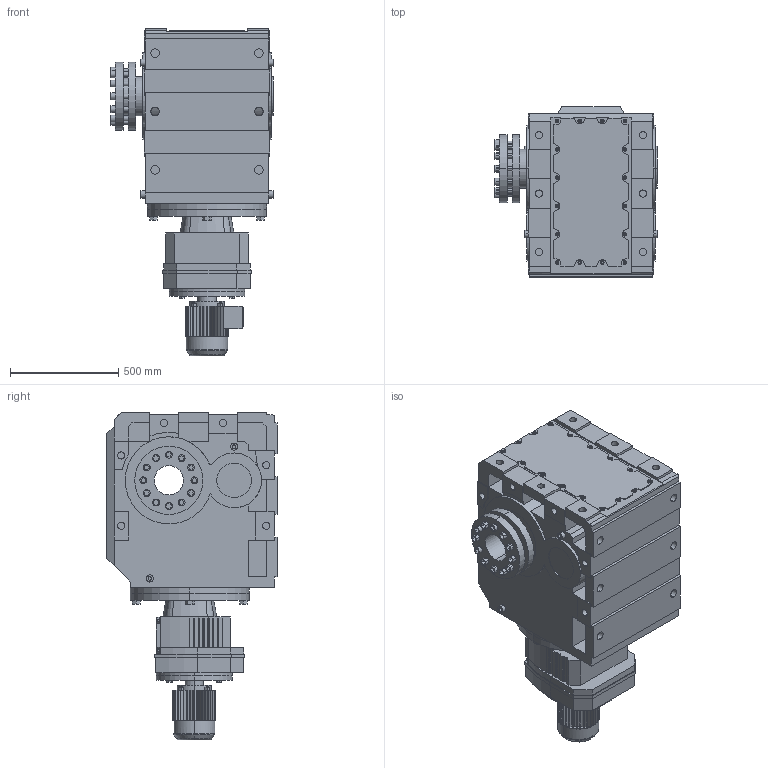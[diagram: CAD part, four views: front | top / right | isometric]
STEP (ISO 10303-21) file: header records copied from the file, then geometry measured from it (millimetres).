
FILE_DESCRIPTION(('Open CASCADE Model'),'2;1');
FILE_NAME('Open CASCADE Shape Model','2021-07-24T16:53:29',('Author'),( 'Open CASCADE'),'Open CASCADE STEP processor 6.3','Open CASCADE 6.3' ,'Unknown');
FILE_SCHEMA(('AUTOMOTIVE_DESIGN_CC2 { 1 2 10303 214 -1 1 5 4 }'));
Length unit declared in the file: millimetre
Products named in the file (5): 1_KH167R107DV100M-A; K167‵187_167.step; 萇儂_350-DV100M-295-380-197-166.step; R_167_107.step; 梠攫諾陑粣K_167.step
Assembly tree (4 placements, depth 2):
  1_KH167R107DV100M-A
    K167‵187_167.step
    萇儂_350-DV100M-295-380-197-166.step
    R_167_107.step
    梠攫諾陑粣K_167.step
Bounding box: 748.48 x 786 x 1514 mm (x, y, z)
Volume: 395209935.5 mm3; surface area: 7014690.2 mm2
Topology: 4 solids, 4 shells, 1300 faces, 3386 edges, 2221 vertices
Faces by surface type: plane 900, cylinder 386, cone 10, torus 4
Entity records: 84298 total; most frequent: CARTESIAN_POINT 18934, DIRECTION 11465, ORIENTED_EDGE 6772, PCURVE 6772, DEFINITIONAL_REPRESENTATION 6772, LINE 6441, VECTOR 6441, EDGE_CURVE 3386
